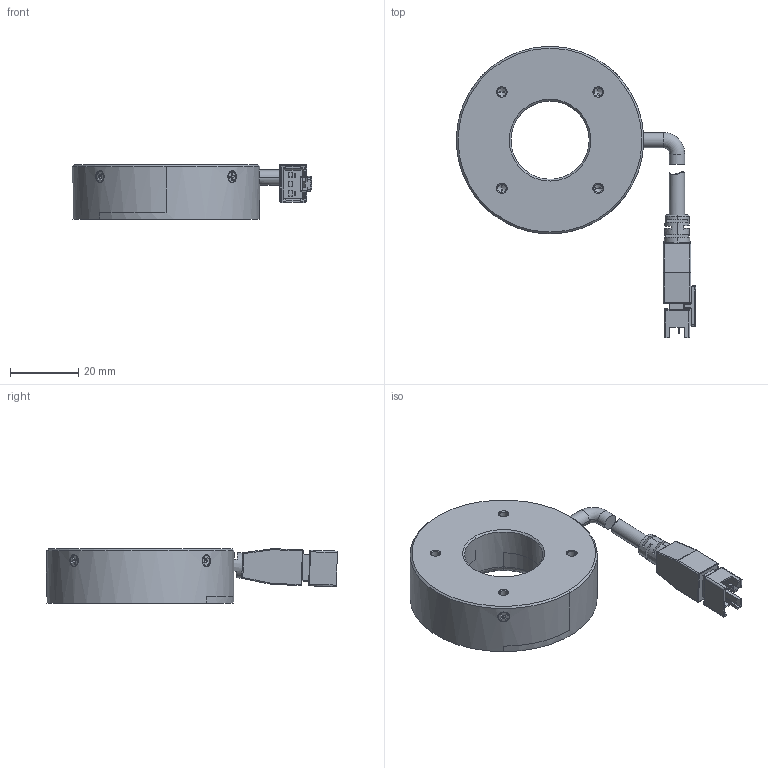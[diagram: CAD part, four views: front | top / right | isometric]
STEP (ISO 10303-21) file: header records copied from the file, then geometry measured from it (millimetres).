
FILE_DESCRIPTION((''),'2;1');
FILE_NAME('55-60','2024-01-30T09:56:37',('qiaoxuan5'),(''),'CREO PARAMETRIC BY PTC INC, 2020044','CREO PARAMETRIC BY PTC INC, 2020044','');
FILE_SCHEMA(('CONFIG_CONTROL_DESIGN'));
Length unit declared in the file: millimetre
Products named in the file (1): 55-60
Bounding box: 70.25 x 85.46 x 16.05 mm (x, y, z)
Volume: 30955.5 mm3; surface area: 16308.1 mm2
Topology: 2 solids, 39 shells, 770 faces, 1924 edges, 1190 vertices
Faces by surface type: plane 401, cylinder 234, cone 100, torus 18, sphere 8, bspline 8, extrusion 1
Entity records: 24554 total; most frequent: CARTESIAN_POINT 6231, DIRECTION 3862, ORIENTED_EDGE 3692, EDGE_CURVE 1892, AXIS2_PLACEMENT_3D 1359, VERTEX_POINT 1190, VECTOR 1144, LINE 1143
